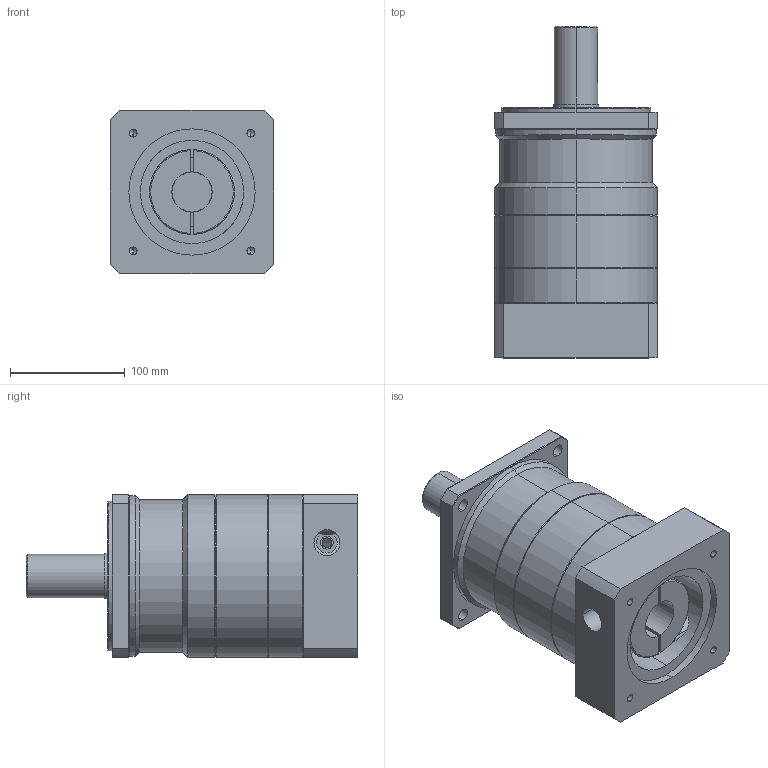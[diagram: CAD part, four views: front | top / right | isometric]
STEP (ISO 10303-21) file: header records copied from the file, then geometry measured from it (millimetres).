
FILE_DESCRIPTION (( 'STEP AP203' ), '1' );
FILE_NAME ('MF150X-L2£r110PCD£r145M8.STEP', '2014-04-16T05:20:30', ( 'KELLY' ), ( '' ), 'SwSTEP 2.0', 'SolidWorks 2012', '' );
FILE_SCHEMA (( 'CONFIG_CONTROL_DESIGN' ));
Length unit declared in the file: millimetre
Products named in the file (1): MF150X-L2｣r110PCD｣r145M8
Bounding box: 142 x 289 x 142 mm (x, y, z)
Volume: 3324151.1 mm3; surface area: 274962 mm2
Topology: 3 solids, 3 shells, 160 faces, 379 edges, 231 vertices
Faces by surface type: cylinder 73, plane 45, cone 36, torus 6
Entity records: 5277 total; most frequent: CARTESIAN_POINT 1464, DIRECTION 819, ORIENTED_EDGE 738, EDGE_CURVE 369, AXIS2_PLACEMENT_3D 329, VERTEX_POINT 231, EDGE_LOOP 196, CIRCLE 168
